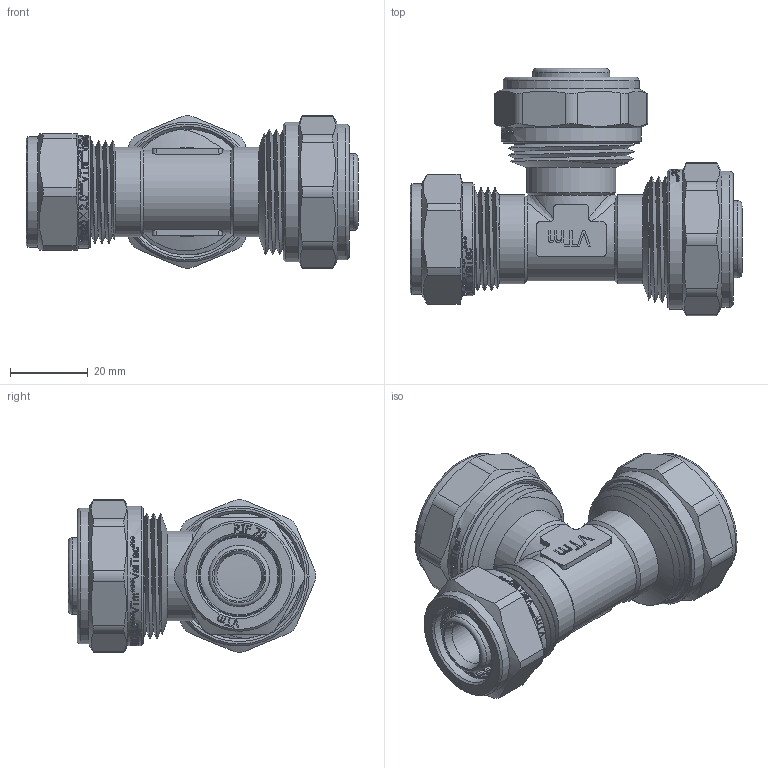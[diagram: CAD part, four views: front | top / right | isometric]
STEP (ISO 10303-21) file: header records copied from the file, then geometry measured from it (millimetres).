
FILE_DESCRIPTION(/* description */ (''),/* implementation_level */ '2;1');
FILE_NAME(/* name */ 'E:\Артём\00000\Работа удаленка\Обжимные фитинги\VTm.331.N.262620.stp',/* time_stamp */ '2020-06-30T13:08:25+03:00',/* author */ ('BeN_GaN'),/* organization */ (''),/* preprocessor_version */ 'ST-DEVELOPER v18',/* originating_system */ 'Autodesk Inventor 2020',/* authorisation */ '');
FILE_SCHEMA (('AUTOMOTIVE_DESIGN { 1 0 10303 214 3 1 1 }'));
Length unit declared in the file: millimetre
Products named in the file (1): VTm.331.N.262620
Bounding box: 85.5 x 63.69 x 39.39 mm (x, y, z)
Volume: 46864.6 mm3; surface area: 38281.9 mm2
Topology: 3 solids, 4 shells, 2030 faces, 5761 edges, 3894 vertices
Faces by surface type: bspline 1112, plane 552, cylinder 248, torus 70, cone 48
Full cylindrical faces by diameter (mm): 11.5 x1, 13.4 x2, 15 x2, 15.75 x4, 17.4 x4, 19.8 x10, 19.986 x4, 20.2 x1, 20.728 x5, 21 x1, 23 x10, 23.201 x1, 24.2 x2, 24.516 x8, 25.435 x10, 26.2 x2, 26.4 x3, 26.7 x2, 28.5 x3, 28.7 x8, 29 x1, 30.5 x5, 35 x2, 36 x2
Entity records: 89677 total; most frequent: CARTESIAN_POINT 44005, ORIENTED_EDGE 11530, DIRECTION 6023, EDGE_CURVE 5765, VERTEX_POINT 3898, LINE 2425, VECTOR 2425, B_SPLINE_CURVE_WITH_KNOTS 2416
